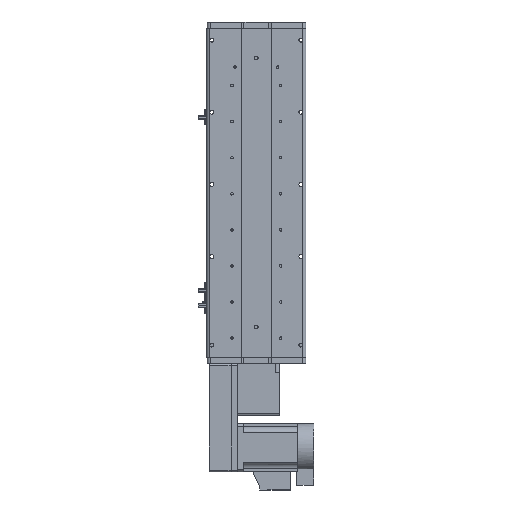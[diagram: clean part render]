
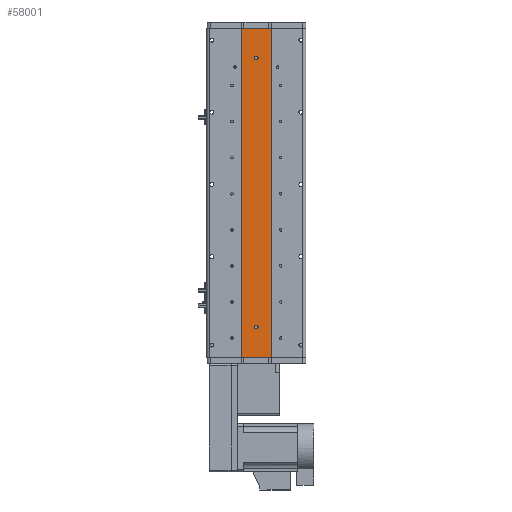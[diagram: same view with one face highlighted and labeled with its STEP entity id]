
A CAD part, front view. The second image highlights one B-rep face of the part: STEP entity #58001.
In plain terms, the highlighted planar face has unit normal (0, -1, 0).
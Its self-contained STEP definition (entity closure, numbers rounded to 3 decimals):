
#350 = CARTESIAN_POINT ( 'NONE',  ( 25., 1., -273.5 ) ) ;
#923 = CARTESIAN_POINT ( 'NONE',  ( 0., 1., -223.5 ) ) ;
#1412 = EDGE_CURVE ( 'NONE', #42101, #59152, #45730, .T. ) ;
#1524 = DIRECTION ( 'NONE',  ( 0., 0., -1. ) ) ;
#3414 = ORIENTED_EDGE ( 'NONE', *, *, #44644, .F. ) ;
#3863 = VERTEX_POINT ( 'NONE', #32417 ) ;
#4087 = EDGE_CURVE ( 'NONE', #31565, #8105, #10501, .T. ) ;
#4171 = LINE ( 'NONE', #7729, #52972 ) ;
#5281 = EDGE_CURVE ( 'NONE', #3863, #30700, #55690, .T. ) ;
#5710 = DIRECTION ( 'NONE',  ( 0., 0., 1. ) ) ;
#6585 = CARTESIAN_POINT ( 'NONE',  ( -25., 1., -273.5 ) ) ;
#7675 = LINE ( 'NONE', #29675, #56476 ) ;
#7708 = VERTEX_POINT ( 'NONE', #27554 ) ;
#7729 = CARTESIAN_POINT ( 'NONE',  ( 25., 1., 273.5 ) ) ;
#8105 = VERTEX_POINT ( 'NONE', #30830 ) ;
#8415 = DIRECTION ( 'NONE',  ( 0., 1., 0. ) ) ;
#9501 = VECTOR ( 'NONE', #33432, 1000. ) ;
#10501 = CIRCLE ( 'NONE', #34575, 3. ) ;
#10534 = ORIENTED_EDGE ( 'NONE', *, *, #4087, .T. ) ;
#12101 = PLANE ( 'NONE',  #22004 ) ;
#12506 = DIRECTION ( 'NONE',  ( 0., 0., -1. ) ) ;
#13295 = FACE_OUTER_BOUND ( 'NONE', #17842, .T. ) ;
#13413 = ORIENTED_EDGE ( 'NONE', *, *, #22519, .T. ) ;
#13534 = EDGE_CURVE ( 'NONE', #21039, #7708, #43223, .T. ) ;
#13964 = ORIENTED_EDGE ( 'NONE', *, *, #5281, .T. ) ;
#16926 = ORIENTED_EDGE ( 'NONE', *, *, #1412, .T. ) ;
#17842 = EDGE_LOOP ( 'NONE', ( #16926, #3414, #43864, #53063 ) ) ;
#18445 = CARTESIAN_POINT ( 'NONE',  ( 0., 1., -223.5 ) ) ;
#20868 = EDGE_CURVE ( 'NONE', #21039, #42101, #7675, .T. ) ;
#20936 = CARTESIAN_POINT ( 'NONE',  ( 0., 1., 223.5 ) ) ;
#21039 = VERTEX_POINT ( 'NONE', #59382 ) ;
#21396 = FACE_BOUND ( 'NONE', #38376, .T. ) ;
#21577 = DIRECTION ( 'NONE',  ( 0., 0., 1. ) ) ;
#21761 = AXIS2_PLACEMENT_3D ( 'NONE', #923, #34033, #5710 ) ;
#22004 = AXIS2_PLACEMENT_3D ( 'NONE', #45125, #49876, #21577 ) ;
#22519 = EDGE_CURVE ( 'NONE', #30700, #3863, #37817, .T. ) ;
#22629 = CARTESIAN_POINT ( 'NONE',  ( 25., 1., 273.5 ) ) ;
#23200 = DIRECTION ( 'NONE',  ( 0., 0., 1. ) ) ;
#25698 = DIRECTION ( 'NONE',  ( 0., 0., 1. ) ) ;
#27554 = CARTESIAN_POINT ( 'NONE',  ( 25., 1., 273.5 ) ) ;
#27871 = CARTESIAN_POINT ( 'NONE',  ( 25., 1., -273.5 ) ) ;
#28695 = AXIS2_PLACEMENT_3D ( 'NONE', #36752, #8415, #41500 ) ;
#29619 = AXIS2_PLACEMENT_3D ( 'NONE', #20936, #53996, #25698 ) ;
#29644 = EDGE_CURVE ( 'NONE', #8105, #31565, #54150, .T. ) ;
#29675 = CARTESIAN_POINT ( 'NONE',  ( -25., 1., 273.5 ) ) ;
#30700 = VERTEX_POINT ( 'NONE', #32856 ) ;
#30830 = CARTESIAN_POINT ( 'NONE',  ( 0., 1., -226.5 ) ) ;
#31565 = VERTEX_POINT ( 'NONE', #41831 ) ;
#32417 = CARTESIAN_POINT ( 'NONE',  ( 0., 1., 220.5 ) ) ;
#32856 = CARTESIAN_POINT ( 'NONE',  ( 0., 1., 226.5 ) ) ;
#33432 = DIRECTION ( 'NONE',  ( 1., 0., 0. ) ) ;
#34033 = DIRECTION ( 'NONE',  ( 0., 1., 0. ) ) ;
#34575 = AXIS2_PLACEMENT_3D ( 'NONE', #18445, #51473, #23200 ) ;
#36752 = CARTESIAN_POINT ( 'NONE',  ( 0., 1., 223.5 ) ) ;
#36873 = DIRECTION ( 'NONE',  ( 1., 0., 0. ) ) ;
#37817 = CIRCLE ( 'NONE', #29619, 3. ) ;
#38376 = EDGE_LOOP ( 'NONE', ( #13964, #13413 ) ) ;
#39177 = ORIENTED_EDGE ( 'NONE', *, *, #29644, .T. ) ;
#41500 = DIRECTION ( 'NONE',  ( 0., 0., 1. ) ) ;
#41763 = VECTOR ( 'NONE', #36873, 1000. ) ;
#41831 = CARTESIAN_POINT ( 'NONE',  ( 0., 1., -220.5 ) ) ;
#42101 = VERTEX_POINT ( 'NONE', #6585 ) ;
#43223 = LINE ( 'NONE', #22629, #41763 ) ;
#43864 = ORIENTED_EDGE ( 'NONE', *, *, #13534, .F. ) ;
#44644 = EDGE_CURVE ( 'NONE', #7708, #59152, #4171, .T. ) ;
#45125 = CARTESIAN_POINT ( 'NONE',  ( 25., 1., 273.5 ) ) ;
#45730 = LINE ( 'NONE', #350, #9501 ) ;
#49876 = DIRECTION ( 'NONE',  ( 0., 1., 0. ) ) ;
#51473 = DIRECTION ( 'NONE',  ( 0., 1., 0. ) ) ;
#52972 = VECTOR ( 'NONE', #12506, 1000. ) ;
#53063 = ORIENTED_EDGE ( 'NONE', *, *, #20868, .T. ) ;
#53996 = DIRECTION ( 'NONE',  ( 0., 1., 0. ) ) ;
#54150 = CIRCLE ( 'NONE', #21761, 3. ) ;
#55690 = CIRCLE ( 'NONE', #28695, 3. ) ;
#56476 = VECTOR ( 'NONE', #1524, 1000. ) ;
#56696 = EDGE_LOOP ( 'NONE', ( #39177, #10534 ) ) ;
#58001 = ADVANCED_FACE ( 'NONE', ( #59081, #21396, #13295 ), #12101, .F. ) ;
#59081 = FACE_BOUND ( 'NONE', #56696, .T. ) ;
#59152 = VERTEX_POINT ( 'NONE', #27871 ) ;
#59382 = CARTESIAN_POINT ( 'NONE',  ( -25., 1., 273.5 ) ) ;
